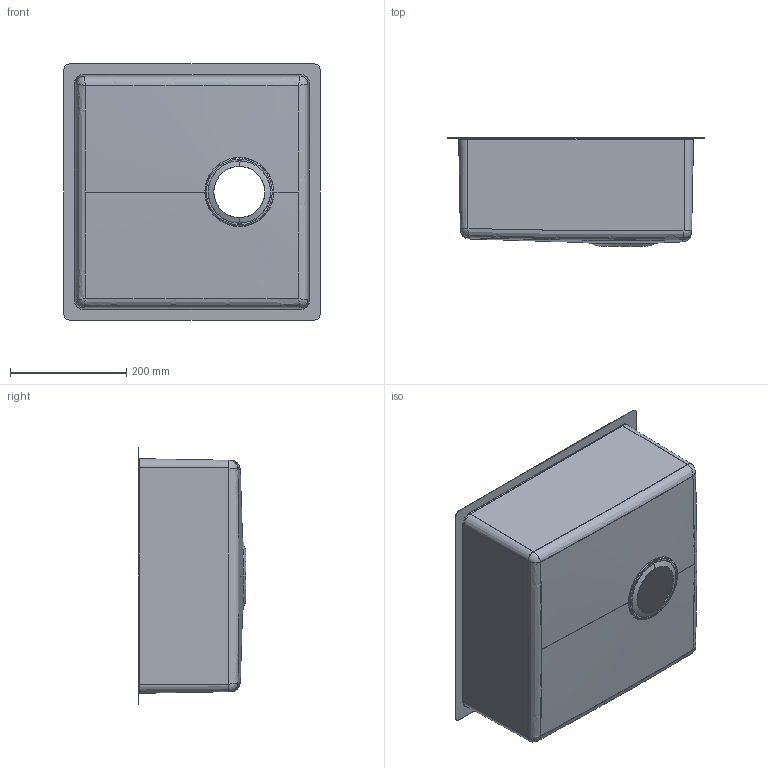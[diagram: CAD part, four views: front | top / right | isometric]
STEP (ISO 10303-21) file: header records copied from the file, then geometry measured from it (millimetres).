
FILE_DESCRIPTION (( 'STEP AP214' ), '1' );
FILE_NAME ('M00267688.STEP', '2022-03-01T09:01:40', ( '' ), ( '' ), 'SwSTEP 2.0', 'SolidWorks 2020', '' );
FILE_SCHEMA (( 'AUTOMOTIVE_DESIGN' ));
Length unit declared in the file: millimetre
Products named in the file (1): M00267688
Bounding box: 440 x 185.15 x 440 mm (x, y, z)
Volume: 443248.8 mm3; surface area: 889424.9 mm2
Topology: 1 solids, 1 shells, 127 faces, 302 edges, 174 vertices
Faces by surface type: torus 36, cylinder 36, plane 23, cone 16, bspline 16
Entity records: 12620 total; most frequent: CARTESIAN_POINT 9728, DIRECTION 624, ORIENTED_EDGE 588, EDGE_CURVE 294, AXIS2_PLACEMENT_3D 262, VERTEX_POINT 174, CIRCLE 150, EDGE_LOOP 136
